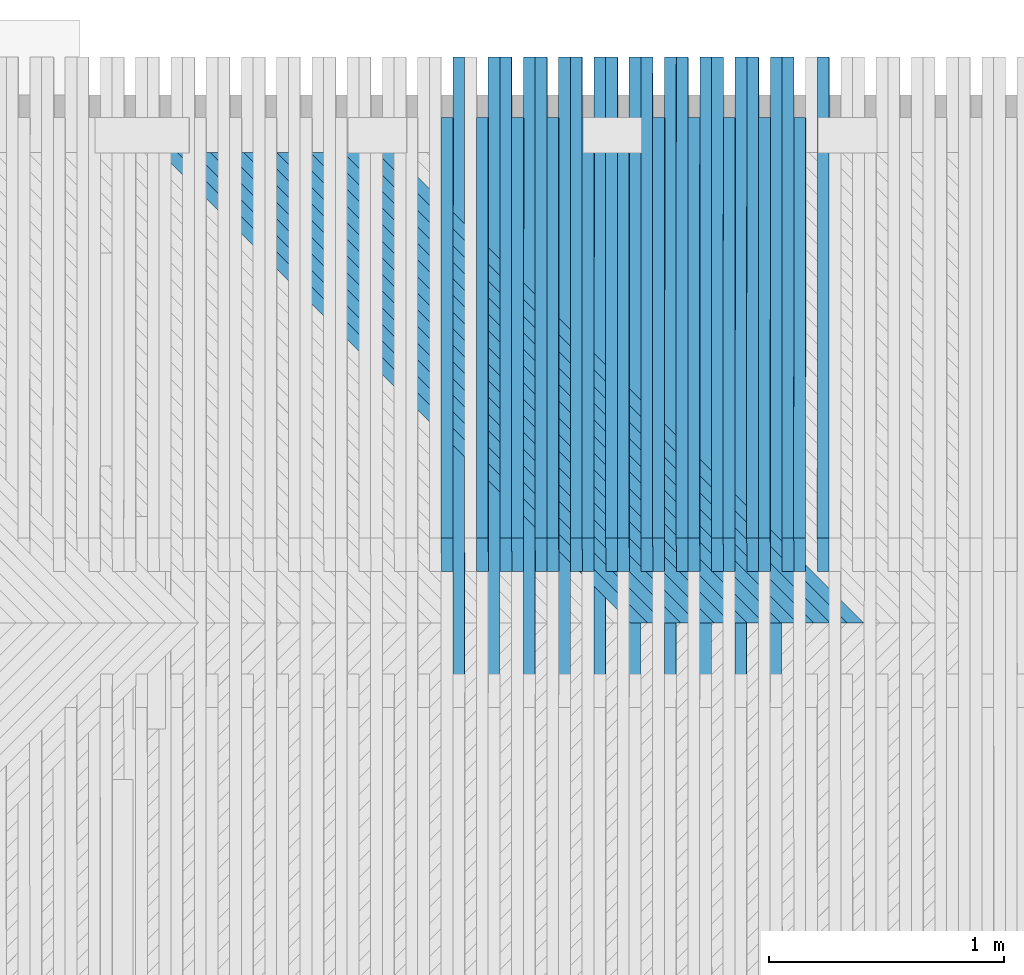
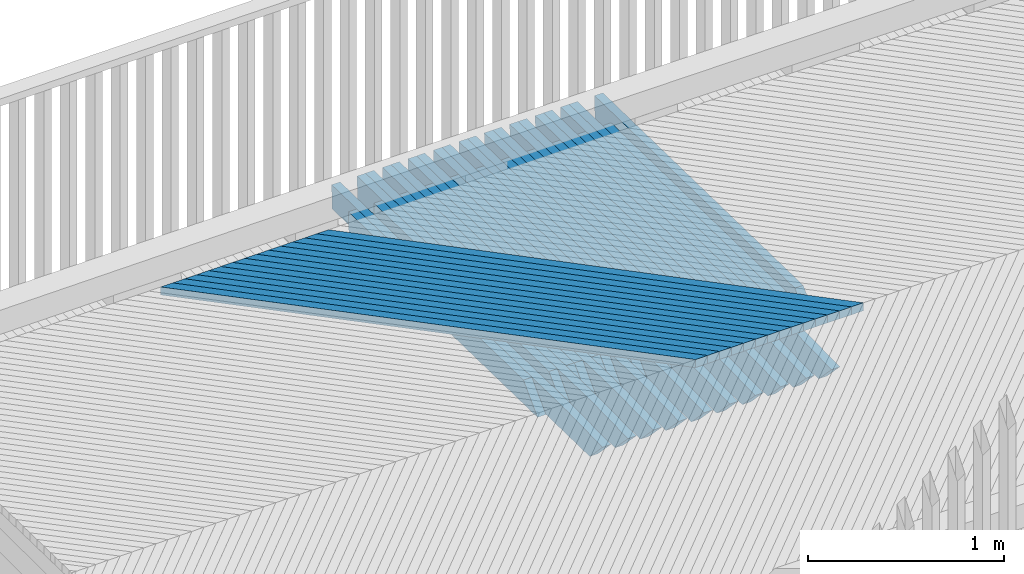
# One storey, part 19 of 47: 45 beams.
"""IFC2X3 building model written with IfcOpenShell, lengths in millimetres."""

from ifc_helpers import new_model, si_unit, frame, origin_with_axes, place, context, subcontext, project, spatial, faceted_brep, material, type_object, element, save


model = new_model("IFC2X3")

# Units and contexts
model_context = context("Model", 3, precision=1e-05, world=origin_with_axes())
body_context = subcontext(model_context, "Body", "Model", "MODEL_VIEW")
ifc_project = project(units=[si_unit("LENGTHUNIT", "METRE", prefix="MILLI"), si_unit("AREAUNIT", "SQUARE_METRE"), si_unit("VOLUMEUNIT", "CUBIC_METRE"), si_unit("MASSUNIT", "GRAM", prefix="KILO"), si_unit("TIMEUNIT", "SECOND"), si_unit("PLANEANGLEUNIT", "RADIAN"), si_unit("SOLIDANGLEUNIT", "STERADIAN"), si_unit("THERMODYNAMICTEMPERATUREUNIT", "DEGREE_CELSIUS"), si_unit("LUMINOUSINTENSITYUNIT", "LUMEN")], contexts=[model_context])

# Site, building, storey
site_placement = place(None, origin_with_axes())
site = spatial("IfcSite", under=ifc_project, at=site_placement, Name="Undefined", CompositionType="ELEMENT")
building_placement = place(site_placement, origin_with_axes())
building = spatial("IfcBuilding", under=site, at=building_placement, Name="Undefined", CompositionType="ELEMENT")
storey_placement = place(building_placement, origin_with_axes())
storey = spatial("IfcBuildingStorey", under=building, at=storey_placement, Name="Undefined", CompositionType="ELEMENT", Elevation=0.0)

# Beams
ifc_material = material(Name="TIMBER/Timber_Undefined")
beam_type_1 = type_object("IfcBeamType", Name="150*50", PredefinedType="NOTDEFINED")
beam_1_placement = place(storey_placement, frame((2298.91927946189, 64513.4953923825, 3066.15042176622), z_axis=(-0.00946620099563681, 0.0199960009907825, 0.99975524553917), x_axis=(-0.000189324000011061, -0.999800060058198, 0.019995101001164)))
element("IfcBeam", 1, at=beam_1_placement, inside=storey, type_object=beam_type_1, material=ifc_material, Name="BEAM", ObjectType="150*50", context=body_context, shape_type="Brep", body=[
    faceted_brep([(6.18456397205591e-09, -24.9999999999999, -75.0000000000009), (-6.1918399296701e-09, -24.9999999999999, 74.9999999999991), (-6.19911588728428e-09, 25.0, 75.0), (6.18456397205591e-09, 24.9999999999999, -75.0), (1928.42646506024, 25.0, -75.0), (1928.4264649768, -24.9999999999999, -75.0), (1789.96936577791, -24.9999999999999, 75.0), (1789.96936586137, 25.0, 75.0000000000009)], [[[0, 1, 2, 3]], [[0, 3, 4, 5]], [[1, 0, 5, 6]], [[2, 1, 6, 7]], [[3, 2, 7, 4]], [[6, 5, 4, 7]]]),
])
beam_2_placement = place(storey_placement, frame((2348.94564099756, 64771.443807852, 3061.46428613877), z_axis=(-0.00946620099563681, 0.0199960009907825, 0.99975524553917), x_axis=(-0.000189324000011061, -0.999800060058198, 0.019995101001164)))
element("IfcBeam", 2, at=beam_2_placement, inside=storey, type_object=beam_type_1, material=ifc_material, Name="BEAM", ObjectType="150*50", context=body_context, shape_type="Brep", body=[
    faceted_brep([(6.18456397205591e-09, -24.9999999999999, -75.0000000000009), (6.18456397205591e-09, 24.9999999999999, -75.0), (2633.00494983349, 25.0000000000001, -75.0000000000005), (2633.00495050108, -24.9999999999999, -75.0000000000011), (-6.1918399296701e-09, -24.9999999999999, 74.9999999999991), (-6.19911588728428e-09, 25.0, 75.0), (2408.42506497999, 24.9999999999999, 75.0), (2768.5924870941, 25.0, 60.5875375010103), (2768.59248707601, -25.0, 60.5875366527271), (2408.4250638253, -25.0, 74.9999999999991)], [[[0, 1, 2, 3]], [[0, 4, 5, 1]], [[2, 1, 5, 6, 7]], [[3, 2, 7, 8]], [[4, 0, 3, 8, 9]], [[5, 4, 9, 6]], [[8, 7, 6, 9]]]),
])
beam_3_placement = place(storey_placement, frame((2549.00533629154, 64771.4438078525, 3063.30789650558), z_axis=(-0.0090509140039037, 0.0199960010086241, 0.999759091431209), x_axis=(-0.000181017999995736, -0.999800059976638, 0.0199951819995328)))
element("IfcBeam", 3, at=beam_3_placement, inside=storey, type_object=beam_type_1, material=ifc_material, Name="BEAM", ObjectType="150*50", context=body_context, shape_type="Brep", body=[
    faceted_brep([(6.18456397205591e-09, -24.9999999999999, -75.0000000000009), (-6.1918399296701e-09, -24.9999999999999, 74.9999999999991), (-6.19911588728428e-09, 25.0, 75.0), (6.18456397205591e-09, 24.9999999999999, -75.0), (2186.42645864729, 25.0, -75.0), (2186.42645915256, -25.0000000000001, -75.0), (2047.96936034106, -25.0000000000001, 75.0), (2047.96935975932, 25.0, 75.0)], [[[0, 1, 2, 3]], [[0, 3, 4, 5]], [[1, 0, 5, 6]], [[2, 1, 6, 7]], [[3, 2, 7, 4]], [[6, 5, 4, 7]]]),
])
beam_4_placement = place(storey_placement, frame((2448.94277656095, 64513.4953923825, 3067.55262391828), z_axis=(-0.00921702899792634, 0.019996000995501, 0.999757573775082), x_axis=(-0.000184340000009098, -0.9998000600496, 0.0199951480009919)))
element("IfcBeam", 4, at=beam_4_placement, inside=storey, type_object=beam_type_1, material=ifc_material, Name="BEAM", ObjectType="150*50", context=body_context, shape_type="Brep", body=[
    faceted_brep([(6.18456397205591e-09, -24.9999999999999, -75.0000000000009), (-6.1918399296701e-09, -24.9999999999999, 74.9999999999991), (-6.19911588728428e-09, 25.0, 75.0), (6.18456397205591e-09, 24.9999999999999, -75.0), (1928.42646506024, 25.0, -75.0), (1928.4264649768, -24.9999999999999, -75.0), (1789.96936577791, -24.9999999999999, 75.0), (1789.96936586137, 25.0, 75.0000000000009)], [[[0, 1, 2, 3]], [[0, 3, 4, 5]], [[1, 0, 5, 6]], [[2, 1, 6, 7]], [[3, 2, 7, 4]], [[6, 5, 4, 7]]]),
])
beam_5_placement = place(storey_placement, frame((2498.96796860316, 64771.443807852, 3062.85402021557), z_axis=(-0.00921702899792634, 0.019996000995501, 0.999757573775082), x_axis=(-0.000184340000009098, -0.9998000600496, 0.0199951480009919)))
element("IfcBeam", 5, at=beam_5_placement, inside=storey, type_object=beam_type_1, material=ifc_material, Name="BEAM", ObjectType="150*50", context=body_context, shape_type="Brep", body=[
    faceted_brep([(6.18456397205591e-09, -24.9999999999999, -75.0000000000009), (6.18456397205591e-09, 24.9999999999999, -75.0), (2633.00494983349, 25.0000000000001, -75.0000000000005), (2633.00495050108, -24.9999999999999, -75.0000000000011), (-6.1918399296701e-09, -24.9999999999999, 74.9999999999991), (-6.19911588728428e-09, 25.0, 75.0), (2408.42506497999, 24.9999999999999, 75.0), (2768.5924870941, 25.0, 60.5875375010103), (2768.59248707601, -25.0, 60.5875366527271), (2408.4250638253, -25.0, 74.9999999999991)], [[[0, 1, 2, 3]], [[0, 4, 5, 1]], [[2, 1, 5, 6, 7]], [[3, 2, 7, 8]], [[4, 0, 3, 8, 9]], [[5, 4, 9, 6]], [[8, 7, 6, 9]]]),
])
beam_6_placement = place(storey_placement, frame((2699.02811717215, 64771.4438078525, 3064.64776904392), z_axis=(-0.00880174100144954, 0.0199960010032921, 0.999761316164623), x_axis=(-0.000176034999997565, -0.999800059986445, 0.019995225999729)))
element("IfcBeam", 6, at=beam_6_placement, inside=storey, type_object=beam_type_1, material=ifc_material, Name="BEAM", ObjectType="150*50", context=body_context, shape_type="Brep", body=[
    faceted_brep([(6.18456397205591e-09, -24.9999999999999, -75.0000000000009), (-6.1918399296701e-09, -24.9999999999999, 74.9999999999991), (-6.19911588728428e-09, 25.0, 75.0), (6.18456397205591e-09, 24.9999999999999, -75.0), (2186.42645864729, 25.0, -75.0), (2186.42645915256, -25.0000000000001, -75.0), (2047.96936034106, -25.0000000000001, 75.0), (2047.96935975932, 25.0, 75.0)], [[[0, 1, 2, 3]], [[0, 3, 4, 5]], [[1, 0, 5, 6]], [[2, 1, 6, 7]], [[3, 2, 7, 4]], [[6, 5, 4, 7]]]),
])
beam_7_placement = place(storey_placement, frame((2598.96661847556, 64513.4953923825, 3068.91743521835), z_axis=(-0.00896785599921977, 0.0199960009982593, 0.999759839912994), x_axis=(-0.000179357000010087, -0.999800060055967, 0.0199951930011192)))
element("IfcBeam", 7, at=beam_7_placement, inside=storey, type_object=beam_type_1, material=ifc_material, Name="BEAM", ObjectType="150*50", context=body_context, shape_type="Brep", body=[
    faceted_brep([(6.18456397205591e-09, -24.9999999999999, -75.0000000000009), (-6.1918399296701e-09, -24.9999999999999, 74.9999999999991), (-6.19911588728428e-09, 25.0, 75.0), (6.18456397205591e-09, 24.9999999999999, -75.0), (1928.42646506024, 25.0, -75.0), (1928.4264649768, -24.9999999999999, -75.0), (1789.96936577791, -24.9999999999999, 75.0), (1789.96936586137, 25.0, 75.0000000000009)], [[[0, 1, 2, 3]], [[0, 3, 4, 5]], [[1, 0, 5, 6]], [[2, 1, 6, 7]], [[3, 2, 7, 4]], [[6, 5, 4, 7]]]),
])
beam_8_placement = place(storey_placement, frame((2648.9906379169, 64771.443807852, 3064.20636373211), z_axis=(-0.00896785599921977, 0.0199960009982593, 0.999759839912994), x_axis=(-0.000179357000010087, -0.999800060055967, 0.0199951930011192)))
element("IfcBeam", 8, at=beam_8_placement, inside=storey, type_object=beam_type_1, material=ifc_material, Name="BEAM", ObjectType="150*50", context=body_context, shape_type="Brep", body=[
    faceted_brep([(6.18456397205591e-09, -24.9999999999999, -75.0000000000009), (6.18456397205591e-09, 24.9999999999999, -75.0), (2633.00494983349, 25.0000000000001, -75.0000000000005), (2633.00495050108, -24.9999999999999, -75.0000000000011), (-6.1918399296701e-09, -24.9999999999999, 74.9999999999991), (-6.19911588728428e-09, 25.0, 75.0), (2408.42506497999, 24.9999999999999, 75.0), (2768.5924870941, 25.0, 60.5875375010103), (2768.59248707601, -25.0, 60.5875366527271), (2408.4250638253, -25.0, 74.9999999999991)], [[[0, 1, 2, 3]], [[0, 4, 5, 1]], [[2, 1, 5, 6, 7]], [[3, 2, 7, 8]], [[4, 0, 3, 8, 9]], [[5, 4, 9, 6]], [[8, 7, 6, 9]]]),
])
beam_9_placement = place(storey_placement, frame((2849.05122733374, 64771.4438078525, 3065.95025091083), z_axis=(-0.00855256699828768, 0.0199960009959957, 0.999763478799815), x_axis=(-0.000171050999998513, -0.999800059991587, 0.0199952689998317)))
element("IfcBeam", 9, at=beam_9_placement, inside=storey, type_object=beam_type_1, material=ifc_material, Name="BEAM", ObjectType="150*50", context=body_context, shape_type="Brep", body=[
    faceted_brep([(6.18456397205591e-09, -24.9999999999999, -75.0000000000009), (-6.1918399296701e-09, -24.9999999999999, 74.9999999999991), (-6.19911588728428e-09, 25.0, 75.0), (6.18456397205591e-09, 24.9999999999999, -75.0), (2186.42645864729, 25.0, -75.0), (2186.42645915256, -25.0000000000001, -75.0), (2047.96936034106, -25.0000000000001, 75.0), (2047.96935975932, 25.0, 75.0)], [[[0, 1, 2, 3]], [[0, 3, 4, 5]], [[1, 0, 5, 6]], [[2, 1, 6, 7]], [[3, 2, 7, 4]], [[6, 5, 4, 7]]]),
])
beam_10_placement = place(storey_placement, frame((2748.99079588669, 64513.4953923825, 3070.24485558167), z_axis=(-0.00871868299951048, 0.0199960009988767, 0.999762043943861), x_axis=(-0.000174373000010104, -0.999800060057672, 0.0199952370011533)))
element("IfcBeam", 10, at=beam_10_placement, inside=storey, type_object=beam_type_1, material=ifc_material, Name="BEAM", ObjectType="150*50", context=body_context, shape_type="Brep", body=[
    faceted_brep([(6.18456397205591e-09, -24.9999999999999, -75.0000000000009), (-6.1918399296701e-09, -24.9999999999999, 74.9999999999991), (-6.19911588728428e-09, 25.0, 75.0), (6.18456397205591e-09, 24.9999999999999, -75.0), (1928.42646506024, 25.0, -75.0), (1928.4264649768, -24.9999999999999, -75.0), (1789.96936577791, -24.9999999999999, 75.0), (1789.96936586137, 25.0, 75.0000000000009)], [[[0, 1, 2, 3]], [[0, 3, 4, 5]], [[1, 0, 5, 6]], [[2, 1, 6, 7]], [[3, 2, 7, 4]], [[6, 5, 4, 7]]]),
])
beam_11_placement = place(storey_placement, frame((2799.0136396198, 64771.443807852, 3065.52131660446), z_axis=(-0.00871868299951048, 0.0199960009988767, 0.999762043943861), x_axis=(-0.000174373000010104, -0.999800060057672, 0.0199952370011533)))
element("IfcBeam", 11, at=beam_11_placement, inside=storey, type_object=beam_type_1, material=ifc_material, Name="BEAM", ObjectType="150*50", context=body_context, shape_type="Brep", body=[
    faceted_brep([(6.18456397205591e-09, -24.9999999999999, -75.0000000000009), (6.18456397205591e-09, 24.9999999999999, -75.0), (2633.00494983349, 25.0000000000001, -75.0000000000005), (2633.00495050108, -24.9999999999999, -75.0000000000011), (-6.1918399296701e-09, -24.9999999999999, 74.9999999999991), (-6.19911588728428e-09, 25.0, 75.0), (2408.42506497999, 24.9999999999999, 75.0), (2768.5924870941, 25.0, 60.5875375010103), (2768.59248707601, -25.0, 60.5875366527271), (2408.4250638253, -25.0, 74.9999999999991)], [[[0, 1, 2, 3]], [[0, 4, 5, 1]], [[2, 1, 5, 6, 7]], [[3, 2, 7, 8]], [[4, 0, 3, 8, 9]], [[5, 4, 9, 6]], [[8, 7, 6, 9]]]),
])
beam_12_placement = place(storey_placement, frame((2999.07465745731, 64771.4438078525, 3067.21534202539), z_axis=(-0.00830339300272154, 0.0199960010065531, 0.999765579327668), x_axis=(-0.000166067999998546, -0.999800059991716, 0.0199953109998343)))
element("IfcBeam", 12, at=beam_12_placement, inside=storey, type_object=beam_type_1, material=ifc_material, Name="BEAM", ObjectType="150*50", context=body_context, shape_type="Brep", body=[
    faceted_brep([(6.18456397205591e-09, -24.9999999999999, -75.0000000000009), (-6.1918399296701e-09, -24.9999999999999, 74.9999999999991), (-6.19911588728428e-09, 25.0, 75.0), (6.18456397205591e-09, 24.9999999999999, -75.0), (2186.42645864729, 25.0, -75.0), (2186.42645915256, -25.0000000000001, -75.0), (2047.96936034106, -25.0000000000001, 75.0), (2047.96935975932, 25.0, 75.0)], [[[0, 1, 2, 3]], [[0, 3, 4, 5]], [[1, 0, 5, 6]], [[2, 1, 6, 7]], [[3, 2, 7, 4]], [[6, 5, 4, 7]]]),
])
beam_13_placement = place(storey_placement, frame((2899.01529947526, 64513.4953923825, 3071.53488492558), z_axis=(-0.0084695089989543, 0.0199960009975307, 0.999764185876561), x_axis=(-0.000169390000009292, -0.999800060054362, 0.0199952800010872)))
element("IfcBeam", 13, at=beam_13_placement, inside=storey, type_object=beam_type_1, material=ifc_material, Name="BEAM", ObjectType="150*50", context=body_context, shape_type="Brep", body=[
    faceted_brep([(6.18456397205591e-09, -24.9999999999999, -75.0000000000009), (-6.1918399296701e-09, -24.9999999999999, 74.9999999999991), (-6.19911588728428e-09, 25.0, 75.0), (6.18456397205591e-09, 24.9999999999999, -75.0), (1928.42646506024, 25.0, -75.0), (1928.4264649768, -24.9999999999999, -75.0), (1789.96936577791, -24.9999999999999, 75.0), (1789.96936586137, 25.0, 75.0000000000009)], [[[0, 1, 2, 3]], [[0, 3, 4, 5]], [[1, 0, 5, 6]], [[2, 1, 6, 7]], [[3, 2, 7, 4]], [[6, 5, 4, 7]]]),
])
beam_14_placement = place(storey_placement, frame((2949.03696439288, 64771.443807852, 3066.79887875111), z_axis=(-0.0084695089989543, 0.0199960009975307, 0.999764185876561), x_axis=(-0.000169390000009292, -0.999800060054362, 0.0199952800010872)))
element("IfcBeam", 14, at=beam_14_placement, inside=storey, type_object=beam_type_1, material=ifc_material, Name="BEAM", ObjectType="150*50", context=body_context, shape_type="Brep", body=[
    faceted_brep([(6.18456397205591e-09, -24.9999999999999, -75.0000000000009), (6.18456397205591e-09, 24.9999999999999, -75.0), (2633.00494983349, 25.0000000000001, -75.0000000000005), (2633.00495050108, -24.9999999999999, -75.0000000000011), (-6.1918399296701e-09, -24.9999999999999, 74.9999999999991), (-6.19911588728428e-09, 25.0, 75.0), (2408.42506497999, 24.9999999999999, 75.0), (2768.5924870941, 25.0, 60.5875375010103), (2768.59248707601, -25.0, 60.5875366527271), (2408.4250638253, -25.0, 74.9999999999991)], [[[0, 1, 2, 3]], [[0, 4, 5, 1]], [[2, 1, 5, 6, 7]], [[3, 2, 7, 8]], [[4, 0, 3, 8, 9]], [[5, 4, 9, 6]], [[8, 7, 6, 9]]]),
])
beam_15_placement = place(storey_placement, frame((3149.09839822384, 64771.4438078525, 3068.44304230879), z_axis=(-0.00805421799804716, 0.0199960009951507, 0.999767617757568), x_axis=(-0.000161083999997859, -0.999800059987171, 0.0199953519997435)))
element("IfcBeam", 15, at=beam_15_placement, inside=storey, type_object=beam_type_1, material=ifc_material, Name="BEAM", ObjectType="150*50", context=body_context, shape_type="Brep", body=[
    faceted_brep([(6.18456397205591e-09, -24.9999999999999, -75.0000000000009), (-6.1918399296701e-09, -24.9999999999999, 74.9999999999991), (-6.19911588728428e-09, 25.0, 75.0), (6.18456397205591e-09, 24.9999999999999, -75.0), (2186.42645864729, 25.0, -75.0), (2186.42645915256, -25.0000000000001, -75.0), (2047.96936034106, -25.0000000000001, 75.0), (2047.96935975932, 25.0, 75.0)], [[[0, 1, 2, 3]], [[0, 3, 4, 5]], [[1, 0, 5, 6]], [[2, 1, 6, 7]], [[3, 2, 7, 4]], [[6, 5, 4, 7]]]),
])
beam_16_placement = place(storey_placement, frame((3049.04011992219, 64513.4953923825, 3072.78752317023), z_axis=(-0.00822033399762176, 0.0199960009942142, 0.999766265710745), x_axis=(-0.000164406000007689, -0.999800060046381, 0.0199953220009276)))
element("IfcBeam", 16, at=beam_16_placement, inside=storey, type_object=beam_type_1, material=ifc_material, Name="BEAM", ObjectType="150*50", context=body_context, shape_type="Brep", body=[
    faceted_brep([(6.18456397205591e-09, -24.9999999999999, -75.0000000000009), (-6.1918399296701e-09, -24.9999999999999, 74.9999999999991), (-6.19911588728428e-09, 25.0, 75.0), (6.18456397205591e-09, 24.9999999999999, -75.0), (1928.42646506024, 25.0, -75.0), (1928.4264649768, -24.9999999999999, -75.0), (1789.96936577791, -24.9999999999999, 75.0), (1789.96936586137, 25.0, 75.0000000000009)], [[[0, 1, 2, 3]], [[0, 3, 4, 5]], [[1, 0, 5, 6]], [[2, 1, 6, 7]], [[3, 2, 7, 4]], [[6, 5, 4, 7]]]),
])
beam_17_placement = place(storey_placement, frame((3099.06060291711, 64771.443807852, 3068.03905009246), z_axis=(-0.00822033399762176, 0.0199960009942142, 0.999766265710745), x_axis=(-0.000164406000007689, -0.999800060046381, 0.0199953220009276)))
element("IfcBeam", 17, at=beam_17_placement, inside=storey, type_object=beam_type_1, material=ifc_material, Name="BEAM", ObjectType="150*50", context=body_context, shape_type="Brep", body=[
    faceted_brep([(6.18456397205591e-09, -24.9999999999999, -75.0000000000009), (6.18456397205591e-09, 24.9999999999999, -75.0), (2633.00494983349, 25.0000000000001, -75.0000000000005), (2633.00495050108, -24.9999999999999, -75.0000000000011), (-6.1918399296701e-09, -24.9999999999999, 74.9999999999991), (-6.19911588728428e-09, 25.0, 75.0), (2408.42506497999, 24.9999999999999, 75.0), (2768.5924870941, 25.0, 60.5875375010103), (2768.59248707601, -25.0, 60.5875366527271), (2408.4250638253, -25.0, 74.9999999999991)], [[[0, 1, 2, 3]], [[0, 4, 5, 1]], [[2, 1, 5, 6, 7]], [[3, 2, 7, 8]], [[4, 0, 3, 8, 9]], [[5, 4, 9, 6]], [[8, 7, 6, 9]]]),
])
beam_18_placement = place(storey_placement, frame((3299.12244031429, 64771.4438078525, 3069.63335168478), z_axis=(-0.0078050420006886, 0.0199960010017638, 0.99976959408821), x_axis=(-0.000156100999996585, -0.999800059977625, 0.0199953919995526)))
element("IfcBeam", 18, at=beam_18_placement, inside=storey, type_object=beam_type_1, material=ifc_material, Name="BEAM", ObjectType="150*50", context=body_context, shape_type="Brep", body=[
    faceted_brep([(6.18456397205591e-09, -24.9999999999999, -75.0000000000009), (-6.1918399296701e-09, -24.9999999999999, 74.9999999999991), (-6.19911588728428e-09, 25.0, 75.0), (6.18456397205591e-09, 24.9999999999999, -75.0), (2186.42645864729, 25.0, -75.0), (2186.42645915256, -25.0000000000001, -75.0), (2047.96936034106, -25.0000000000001, 75.0), (2047.96935975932, 25.0, 75.0)], [[[0, 1, 2, 3]], [[0, 3, 4, 5]], [[1, 0, 5, 6]], [[2, 1, 6, 7]], [[3, 2, 7, 4]], [[6, 5, 4, 7]]]),
])
beam_19_placement = place(storey_placement, frame((3199.06524790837, 64513.4953923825, 3074.00277023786), z_axis=(-0.00797115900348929, 0.0199960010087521, 0.999768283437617), x_axis=(-0.000159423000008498, -0.999800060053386, 0.0199953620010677)))
element("IfcBeam", 19, at=beam_19_placement, inside=storey, type_object=beam_type_1, material=ifc_material, Name="BEAM", ObjectType="150*50", context=body_context, shape_type="Brep", body=[
    faceted_brep([(6.18456397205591e-09, -24.9999999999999, -75.0000000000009), (-6.1918399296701e-09, -24.9999999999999, 74.9999999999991), (-6.19911588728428e-09, 25.0, 75.0), (6.18456397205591e-09, 24.9999999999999, -75.0), (1928.42646506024, 25.0, -75.0), (1928.4264649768, -24.9999999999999, -75.0), (1789.96936577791, -24.9999999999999, 75.0), (1789.96936586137, 25.0, 75.0000000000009)], [[[0, 1, 2, 3]], [[0, 3, 4, 5]], [[1, 0, 5, 6]], [[2, 1, 6, 7]], [[3, 2, 7, 4]], [[6, 5, 4, 7]]]),
])
beam_20_placement = place(storey_placement, frame((3249.08454587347, 64771.443807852, 3069.24183055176), z_axis=(-0.00797115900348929, 0.0199960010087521, 0.999768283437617), x_axis=(-0.000159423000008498, -0.999800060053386, 0.0199953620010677)))
element("IfcBeam", 20, at=beam_20_placement, inside=storey, type_object=beam_type_1, material=ifc_material, Name="BEAM", ObjectType="150*50", context=body_context, shape_type="Brep", body=[
    faceted_brep([(6.18456397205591e-09, -24.9999999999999, -75.0000000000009), (6.18456397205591e-09, 24.9999999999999, -75.0), (2633.00494983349, 25.0000000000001, -75.0000000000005), (2633.00495050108, -24.9999999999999, -75.0000000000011), (-6.1918399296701e-09, -24.9999999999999, 74.9999999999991), (-6.19911588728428e-09, 25.0, 75.0), (2408.42506497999, 24.9999999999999, 75.0), (2768.5924870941, 25.0, 60.5875375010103), (2768.59248707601, -25.0, 60.5875366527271), (2408.4250638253, -25.0, 74.9999999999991)], [[[0, 1, 2, 3]], [[0, 4, 5, 1]], [[2, 1, 5, 6, 7]], [[3, 2, 7, 8]], [[4, 0, 3, 8, 9]], [[5, 4, 9, 6]], [[8, 7, 6, 9]]]),
])
beam_21_placement = place(storey_placement, frame((3449.14677440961, 64771.4438078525, 3070.78627007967), z_axis=(-0.0075558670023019, 0.0199960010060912, 0.999771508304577), x_axis=(-0.000151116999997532, -0.999800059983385, 0.0199954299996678)))
element("IfcBeam", 21, at=beam_21_placement, inside=storey, type_object=beam_type_1, material=ifc_material, Name="BEAM", ObjectType="150*50", context=body_context, shape_type="Brep", body=[
    faceted_brep([(6.18456397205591e-09, -24.9999999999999, -75.0000000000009), (-6.1918399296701e-09, -24.9999999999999, 74.9999999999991), (-6.19911588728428e-09, 25.0, 75.0), (6.18456397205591e-09, 24.9999999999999, -75.0), (2186.42645864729, 25.0, -75.0), (2186.42645915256, -25.0000000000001, -75.0), (2047.96936034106, -25.0000000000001, 75.0), (2047.96935975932, 25.0, 75.0)], [[[0, 1, 2, 3]], [[0, 3, 4, 5]], [[1, 0, 5, 6]], [[2, 1, 6, 7]], [[3, 2, 7, 4]], [[6, 5, 4, 7]]]),
])
beam_22_placement = place(storey_placement, frame((3349.09067411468, 64513.4953923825, 3075.18062605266), z_axis=(-0.00772198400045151, 0.0199960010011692, 0.999770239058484), x_axis=(-0.000154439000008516, -0.999800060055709, 0.0199954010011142)))
element("IfcBeam", 22, at=beam_22_placement, inside=storey, type_object=beam_type_1, material=ifc_material, Name="BEAM", ObjectType="150*50", context=body_context, shape_type="Brep", body=[
    faceted_brep([(6.18456397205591e-09, -24.9999999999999, -75.0000000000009), (-6.1918399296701e-09, -24.9999999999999, 74.9999999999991), (-6.19911588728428e-09, 25.0, 75.0), (6.18456397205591e-09, 24.9999999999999, -75.0), (1928.42646506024, 25.0, -75.0), (1928.4264649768, -24.9999999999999, -75.0), (1789.96936577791, -24.9999999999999, 75.0), (1789.96936586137, 25.0, 75.0000000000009)], [[[0, 1, 2, 3]], [[0, 3, 4, 5]], [[1, 0, 5, 6]], [[2, 1, 6, 7]], [[3, 2, 7, 4]], [[6, 5, 4, 7]]]),
])
beam_23_placement = place(storey_placement, frame((3399.1087839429, 64771.443807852, 3070.40722005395), z_axis=(-0.00772198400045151, 0.0199960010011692, 0.999770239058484), x_axis=(-0.000154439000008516, -0.999800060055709, 0.0199954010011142)))
element("IfcBeam", 23, at=beam_23_placement, inside=storey, type_object=beam_type_1, material=ifc_material, Name="BEAM", ObjectType="150*50", context=body_context, shape_type="Brep", body=[
    faceted_brep([(6.18456397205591e-09, -24.9999999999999, -75.0000000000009), (6.18456397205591e-09, 24.9999999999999, -75.0), (2633.00494983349, 25.0000000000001, -75.0000000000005), (2633.00495050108, -24.9999999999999, -75.0000000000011), (-6.1918399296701e-09, -24.9999999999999, 74.9999999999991), (-6.19911588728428e-09, 25.0, 75.0), (2408.42506497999, 24.9999999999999, 75.0), (2768.5924870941, 25.0, 60.5875375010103), (2768.59248707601, -25.0, 60.5875366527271), (2408.4250638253, -25.0, 74.9999999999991)], [[[0, 1, 2, 3]], [[0, 4, 5, 1]], [[2, 1, 5, 6, 7]], [[3, 2, 7, 8]], [[4, 0, 3, 8, 9]], [[5, 4, 9, 6]], [[8, 7, 6, 9]]]),
])
beam_24_placement = place(storey_placement, frame((3599.17139119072, 64771.4438078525, 3071.90179742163), z_axis=(-0.00730669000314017, 0.0199960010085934, 0.999773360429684), x_axis=(-0.000146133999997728, -0.999800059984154, 0.0199954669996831)))
element("IfcBeam", 24, at=beam_24_placement, inside=storey, type_object=beam_type_1, material=ifc_material, Name="BEAM", ObjectType="150*50", context=body_context, shape_type="Brep", body=[
    faceted_brep([(6.18456397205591e-09, -24.9999999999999, -75.0000000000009), (-6.1918399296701e-09, -24.9999999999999, 74.9999999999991), (-6.19911588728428e-09, 25.0, 75.0), (6.18456397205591e-09, 24.9999999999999, -75.0), (2186.42645864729, 25.0, -75.0), (2186.42645915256, -25.0000000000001, -75.0), (2047.96936034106, -25.0000000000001, 75.0), (2047.96935975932, 25.0, 75.0)], [[[0, 1, 2, 3]], [[0, 3, 4, 5]], [[1, 0, 5, 6]], [[2, 1, 6, 7]], [[3, 2, 7, 4]], [[6, 5, 4, 7]]]),
])
beam_25_placement = place(storey_placement, frame((3499.11638922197, 64513.4953923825, 3076.32109054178), z_axis=(-0.00747280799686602, 0.0199960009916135, 0.999772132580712), x_axis=(-0.000149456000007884, -0.999800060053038, 0.0199954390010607)))
element("IfcBeam", 25, at=beam_25_placement, inside=storey, type_object=beam_type_1, material=ifc_material, Name="BEAM", ObjectType="150*50", context=body_context, shape_type="Brep", body=[
    faceted_brep([(6.18456397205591e-09, -24.9999999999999, -75.0000000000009), (-6.1918399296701e-09, -24.9999999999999, 74.9999999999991), (-6.19911588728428e-09, 25.0, 75.0), (6.18456397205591e-09, 24.9999999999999, -75.0), (1928.42646506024, 25.0, -75.0), (1928.4264649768, -24.9999999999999, -75.0), (1789.96936577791, -24.9999999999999, 75.0), (1789.96936586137, 25.0, 75.0000000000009)], [[[0, 1, 2, 3]], [[0, 3, 4, 5]], [[1, 0, 5, 6]], [[2, 1, 6, 7]], [[3, 2, 7, 4]], [[6, 5, 4, 7]]]),
])
beam_26_placement = place(storey_placement, frame((3549.13330780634, 64771.443807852, 3071.53521852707), z_axis=(-0.00747280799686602, 0.0199960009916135, 0.999772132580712), x_axis=(-0.000149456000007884, -0.999800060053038, 0.0199954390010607)))
element("IfcBeam", 26, at=beam_26_placement, inside=storey, type_object=beam_type_1, material=ifc_material, Name="BEAM", ObjectType="150*50", context=body_context, shape_type="Brep", body=[
    faceted_brep([(6.18456397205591e-09, -24.9999999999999, -75.0000000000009), (6.18456397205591e-09, 24.9999999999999, -75.0), (2633.00494983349, 25.0000000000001, -75.0000000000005), (2633.00495050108, -24.9999999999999, -75.0000000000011), (-6.1918399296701e-09, -24.9999999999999, 74.9999999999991), (-6.19911588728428e-09, 25.0, 75.0), (2408.42506497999, 24.9999999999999, 75.0), (2768.5924870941, 25.0, 60.5875375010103), (2768.59248707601, -25.0, 60.5875366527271), (2408.4250638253, -25.0, 74.9999999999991)], [[[0, 1, 2, 3]], [[0, 4, 5, 1]], [[2, 1, 5, 6, 7]], [[3, 2, 7, 8]], [[4, 0, 3, 8, 9]], [[5, 4, 9, 6]], [[8, 7, 6, 9]]]),
])
beam_27_placement = place(storey_placement, frame((3749.19628133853, 64771.4438078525, 3072.97993364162), z_axis=(-0.00705751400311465, 0.019996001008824, 0.999775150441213), x_axis=(-0.000141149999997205, -0.999800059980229, 0.0199955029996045)))
element("IfcBeam", 27, at=beam_27_placement, inside=storey, type_object=beam_type_1, material=ifc_material, Name="BEAM", ObjectType="150*50", context=body_context, shape_type="Brep", body=[
    faceted_brep([(6.18456397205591e-09, -24.9999999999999, -75.0000000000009), (-6.1918399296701e-09, -24.9999999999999, 74.9999999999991), (-6.19911588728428e-09, 25.0, 75.0), (6.18456397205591e-09, 24.9999999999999, -75.0), (2186.42645864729, 25.0, -75.0), (2186.42645915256, -25.0000000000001, -75.0), (2047.96936034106, -25.0000000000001, 75.0), (2047.96935975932, 25.0, 75.0)], [[[0, 1, 2, 3]], [[0, 3, 4, 5]], [[1, 0, 5, 6]], [[2, 1, 6, 7]], [[3, 2, 7, 4]], [[6, 5, 4, 7]]]),
])
beam_28_placement = place(storey_placement, frame((3649.14238391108, 64513.4953923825, 3077.42416363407), z_axis=(-0.0072236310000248, 0.0199960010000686, 0.999773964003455), x_axis=(-0.000144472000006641, -0.999800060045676, 0.0199954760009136)))
element("IfcBeam", 28, at=beam_28_placement, inside=storey, type_object=beam_type_1, material=ifc_material, Name="BEAM", ObjectType="150*50", context=body_context, shape_type="Brep", body=[
    faceted_brep([(6.18456397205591e-09, -24.9999999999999, -75.0000000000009), (-6.1918399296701e-09, -24.9999999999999, 74.9999999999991), (-6.19911588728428e-09, 25.0, 75.0), (6.18456397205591e-09, 24.9999999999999, -75.0), (1928.42646506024, 25.0, -75.0), (1928.4264649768, -24.9999999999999, -75.0), (1789.96936577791, -24.9999999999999, 75.0), (1789.96936586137, 25.0, 75.0000000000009)], [[[0, 1, 2, 3]], [[0, 3, 4, 5]], [[1, 0, 5, 6]], [[2, 1, 6, 7]], [[3, 2, 7, 4]], [[6, 5, 4, 7]]]),
])
beam_29_placement = place(storey_placement, frame((3699.15810814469, 64771.443807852, 3072.6258259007), z_axis=(-0.0072236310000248, 0.0199960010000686, 0.999773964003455), x_axis=(-0.000144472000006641, -0.999800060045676, 0.0199954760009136)))
element("IfcBeam", 29, at=beam_29_placement, inside=storey, type_object=beam_type_1, material=ifc_material, Name="BEAM", ObjectType="150*50", context=body_context, shape_type="Brep", body=[
    faceted_brep([(6.18456397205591e-09, -24.9999999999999, -75.0000000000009), (6.18456397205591e-09, 24.9999999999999, -75.0), (2633.00494983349, 25.0000000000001, -75.0000000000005), (2633.00495050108, -24.9999999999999, -75.0000000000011), (-6.1918399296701e-09, -24.9999999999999, 74.9999999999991), (-6.19911588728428e-09, 25.0, 75.0), (2408.42506497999, 24.9999999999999, 75.0), (2768.5924870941, 25.0, 60.5875375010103), (2768.59248707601, -25.0, 60.5875366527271), (2408.4250638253, -25.0, 74.9999999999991)], [[[0, 1, 2, 3]], [[0, 4, 5, 1]], [[2, 1, 5, 6, 7]], [[3, 2, 7, 8]], [[4, 0, 3, 8, 9]], [[5, 4, 9, 6]], [[8, 7, 6, 9]]]),
])
beam_30_placement = place(storey_placement, frame((3899.22143553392, 64771.4438078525, 3074.02067867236), z_axis=(-0.00680833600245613, 0.019996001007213, 0.999776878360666), x_axis=(-0.000136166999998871, -0.999800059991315, 0.0199955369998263)))
element("IfcBeam", 30, at=beam_30_placement, inside=storey, type_object=beam_type_1, material=ifc_material, Name="BEAM", ObjectType="150*50", context=body_context, shape_type="Brep", body=[
    faceted_brep([(6.18456397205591e-09, -24.9999999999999, -75.0000000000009), (-6.1918399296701e-09, -24.9999999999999, 74.9999999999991), (-6.19911588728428e-09, 25.0, 75.0), (6.18456397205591e-09, 24.9999999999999, -75.0), (2186.42645864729, 25.0, -75.0), (2186.42645915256, -25.0000000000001, -75.0), (2047.96936034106, -25.0000000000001, 75.0), (2047.96935975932, 25.0, 75.0)], [[[0, 1, 2, 3]], [[0, 3, 4, 5]], [[1, 0, 5, 6]], [[2, 1, 6, 7]], [[3, 2, 7, 4]], [[6, 5, 4, 7]]]),
])
beam_31_placement = place(storey_placement, frame((3799.16864886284, 64513.4953923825, 3078.48984526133), z_axis=(-0.00697445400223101, 0.0199960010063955, 0.99977573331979), x_axis=(-0.00013948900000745, -0.999800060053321, 0.0199955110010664)))
element("IfcBeam", 31, at=beam_31_placement, inside=storey, type_object=beam_type_1, material=ifc_material, Name="BEAM", ObjectType="150*50", context=body_context, shape_type="Brep", body=[
    faceted_brep([(6.18456397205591e-09, -24.9999999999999, -75.0000000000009), (-6.1918399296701e-09, -24.9999999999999, 74.9999999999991), (-6.19911588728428e-09, 25.0, 75.0), (6.18456397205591e-09, 24.9999999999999, -75.0), (1928.42646506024, 25.0, -75.0), (1928.4264649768, -24.9999999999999, -75.0), (1789.96936577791, -24.9999999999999, 75.0), (1789.96936586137, 25.0, 75.0000000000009)], [[[0, 1, 2, 3]], [[0, 3, 4, 5]], [[1, 0, 5, 6]], [[2, 1, 6, 7]], [[3, 2, 7, 4]], [[6, 5, 4, 7]]]),
])
beam_type_2 = type_object("IfcBeamType", Name="50*50", PredefinedType="NOTDEFINED")
for number, where, z_axis, x_axis, name in (
    (32, (4033.82969771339, 62365.4998996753, 3223.05909950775), (0.707183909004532, 0.706981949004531, -0.00821234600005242), (-0.706979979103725, 0.70694885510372, -0.0200655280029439), "BEAM"),
    (33, (3963.10702613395, 62365.4998996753, 3222.58907696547), (0.707184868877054, 0.70698194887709, -0.00812927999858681), (-0.706977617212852, 0.706948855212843, -0.0201485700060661), "BEAM"),
    (34, (3892.38441025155, 62365.4998996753, 3222.11074729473), (0.707185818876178, 0.706981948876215, -0.00804621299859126), (-0.706975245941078, 0.706948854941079, -0.0202316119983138), "BEAM"),
    (35, (3821.66185104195, 62365.4998996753, 3221.62411050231), (0.707186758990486, 0.706981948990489, -0.0079631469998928), (-0.706972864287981, 0.70694885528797, -0.0203146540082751), "BEAM"),
    (36, (3750.93934948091, 62365.4998996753, 3221.12916659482), (0.707187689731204, 0.706981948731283, -0.00788007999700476), (-0.706970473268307, 0.706948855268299, -0.0203976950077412), "BEAM"),
    (37, (3680.21690654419, 62365.4998996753, 3220.62591557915), (0.707188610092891, 0.706981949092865, -0.00779701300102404), (-0.70696807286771, 0.706948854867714, -0.0204807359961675), "BEAM"),
    (38, (3609.49452320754, 62365.4998996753, 3220.11435746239), (0.707189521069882, 0.706981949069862, -0.00771394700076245), (-0.70696566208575, 0.706948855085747, -0.0205637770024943), "BEAM"),
    (39, (3538.77220044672, 62365.4998996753, 3219.59449225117), (0.707190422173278, 0.706981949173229, -0.00763088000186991), (-0.706963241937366, 0.706948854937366, -0.0206468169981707), "BEAM"),
    (40, (3468.04993923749, 62365.4998996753, 3219.06631995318), (0.707191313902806, 0.706981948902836, -0.00754781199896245), (-0.706960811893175, 0.706948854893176, -0.0207298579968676), "BEAM"),
    (41, (3397.3277405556, 62365.4998996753, 3218.52984057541), (0.707192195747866, 0.706981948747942, -0.00746474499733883), (-0.70695837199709, 0.706948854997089, -0.0208128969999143), "BEAM"),
    (42, (3326.60560537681, 62365.4998996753, 3217.98505412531), (0.707193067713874, 0.70698194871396, -0.00738167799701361), (-0.706955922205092, 0.70694885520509, -0.020895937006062), "BEAM"),
    (43, (3255.88353467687, 62365.4998996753, 3217.43196061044), (0.707193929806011, 0.70698194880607, -0.00729860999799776), (-0.706953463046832, 0.706948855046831, -0.0209789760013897), "BEAM"),
    (44, (3185.16152943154, 62365.4998996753, 3216.87056003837), (0.707194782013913, 0.70698194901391, -0.00721554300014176), (-0.706950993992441, 0.706948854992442, -0.0210620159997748), "BEAM"),
    (45, (3114.43959061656, 62365.4998996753, 3216.30085241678), (0.707195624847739, 0.706981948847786, -0.00713247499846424), (-0.706948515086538, 0.706948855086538, -0.0211450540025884), "BEAM"),
):
    element("IfcBeam", number, at=place(storey_placement, frame(where, z_axis=z_axis, x_axis=x_axis)), inside=storey, type_object=beam_type_2, material=ifc_material, Name=name, ObjectType="50*50", context=body_context, shape_type="Brep", body=[
        faceted_brep([(23.5869248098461, 25.0, -25.0), (-26.4154158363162, 25.0, 25.0), (2802.92643296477, 25.0000000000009, 25.0), (2852.92877373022, 25.0000000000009, -25.0), (-25.0011704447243, -25.0, 24.9999999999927), (2804.34067830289, -24.9999999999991, 25.0), (25.0011701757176, -25.0, -24.9999999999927), (2854.34301907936, -24.9999999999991, -25.0)], [[[0, 1, 2, 3]], [[1, 4, 5, 2]], [[4, 6, 7, 5]], [[6, 0, 3, 7]], [[5, 7, 3, 2]], [[6, 4, 1, 0]]]),
    ])

save(model, "model.ifc")
